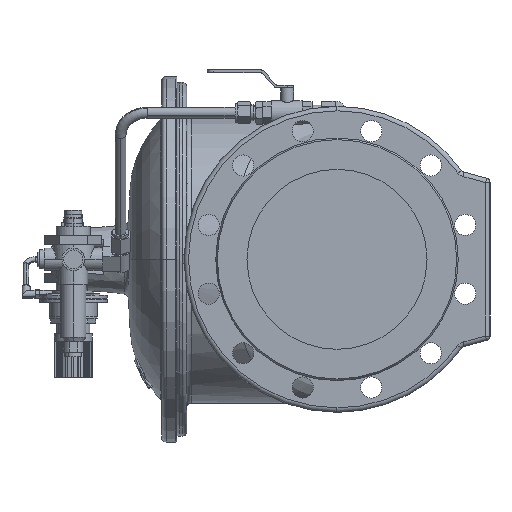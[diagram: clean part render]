
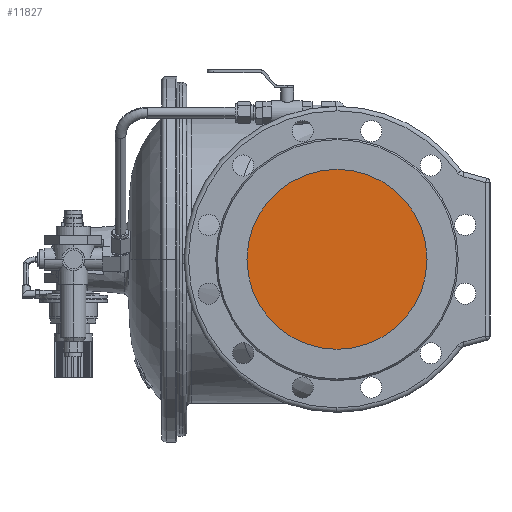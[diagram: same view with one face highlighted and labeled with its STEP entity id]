
A CAD part, left-side view. The second image highlights one B-rep face of the part: STEP entity #11827.
In plain terms, the highlighted planar face has unit normal (-1, 0, 0).
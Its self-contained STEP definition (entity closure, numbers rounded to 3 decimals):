
#79 = CARTESIAN_POINT ( 'NONE',  ( -270., -100., 0. ) ) ;
#4296 = CARTESIAN_POINT ( 'NONE',  ( -270., 0., 0. ) ) ;
#4966 = CARTESIAN_POINT ( 'NONE',  ( -270., 100., 0. ) ) ;
#11498 = CIRCLE ( 'NONE', #19850, 100. ) ;
#11827 = ADVANCED_FACE ( 'Defeatured_0_917', ( #19209 ), #13774, .T. ) ;
#13194 = DIRECTION ( 'NONE',  ( 0., -1., 0. ) ) ;
#13774 = PLANE ( 'NONE',  #33462 ) ;
#16378 = DIRECTION ( 'NONE',  ( -1., 0., 0. ) ) ;
#19209 = FACE_OUTER_BOUND ( 'NONE', #38804, .T. ) ;
#19850 = AXIS2_PLACEMENT_3D ( 'NONE', #4296, #16378, #34667 ) ;
#20325 = VERTEX_POINT ( 'NONE', #79 ) ;
#22434 = CARTESIAN_POINT ( 'NONE',  ( -270., 0., 0. ) ) ;
#22453 = VERTEX_POINT ( 'NONE', #4966 ) ;
#23656 = EDGE_CURVE ( 'Defeatured_0_917+Defeatured_0_918+Defeatured_0_918+Defeatured_0_918', #20325, #22453, #35998, .T. ) ;
#25096 = AXIS2_PLACEMENT_3D ( 'NONE', #36867, #30649, #39681 ) ;
#29420 = ORIENTED_EDGE ( 'NONE', *, *, #35991, .T. ) ;
#30649 = DIRECTION ( 'NONE',  ( -1., 0., 0. ) ) ;
#33462 = AXIS2_PLACEMENT_3D ( 'NONE', #22434, #34689, #13194 ) ;
#34667 = DIRECTION ( 'NONE',  ( 0., -1., 0. ) ) ;
#34689 = DIRECTION ( 'NONE',  ( -1., 0., 0. ) ) ;
#35991 = EDGE_CURVE ( 'Defeatured_0_917+Defeatured_0_918+Defeatured_0_918+Defeatured_0_918', #22453, #20325, #11498, .T. ) ;
#35998 = CIRCLE ( 'NONE', #25096, 100. ) ;
#36867 = CARTESIAN_POINT ( 'NONE',  ( -270., 0., 0. ) ) ;
#38804 = EDGE_LOOP ( 'NONE', ( #29420, #39128 ) ) ;
#39128 = ORIENTED_EDGE ( 'NONE', *, *, #23656, .T. ) ;
#39681 = DIRECTION ( 'NONE',  ( 0., -1., 0. ) ) ;
